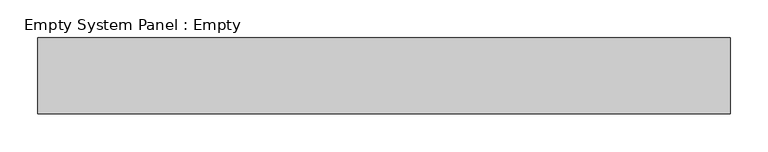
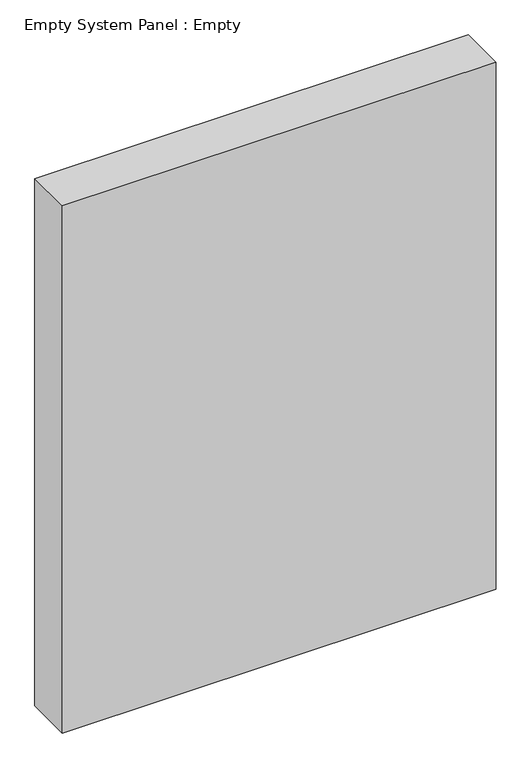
"""IFC4 building model written with IfcOpenShell, lengths in millimetres: plate geometry, Empty System Panel : Empty."""

from ifc_helpers import new_model, si_unit, origin, origin_with_axes, place, context, project, spatial, polyline, outline, extrude, source, transform, mapped, element, save


def empty_system_panel_empty_0722500c(model_context):
    return source(origin(), model_context, "Body", "SweptSolid", [
        extrude(outline(polyline([(456.25, -50.0), (-456.25, -50.0), (-456.25, 50.0), (456.25, 50.0), (456.25, -50.0)])), origin_with_axes(), (0.0, 0.0, 1.0), 1172.5),
    ])


if __name__ == "__main__":
    model = new_model("IFC4")
    model_context = context("Model", 3, world=origin())
    ifc_project = project(units=[si_unit("LENGTHUNIT", "METRE", prefix="MILLI")], contexts=[model_context])
    site = spatial("IfcSite", under=ifc_project)
    building = spatial("IfcBuilding", under=site)
    placement = place(None, origin())
    empty_system_panel_empty_shape = empty_system_panel_empty_0722500c(model_context)
    element("IfcPlate", 1, ObjectType="Empty System Panel : Empty", at=placement, inside=building, context=model_context, shape_type="MappedRepresentation", body=[
        mapped(empty_system_panel_empty_shape, transform((0.0, 0.0, 0.0), x_axis=(1.0, 0.0, 0.0), y_axis=(0.0, 1.0, 0.0), z_axis=(0.0, 0.0, 1.0))),
    ])
    save(model, "model.ifc")
